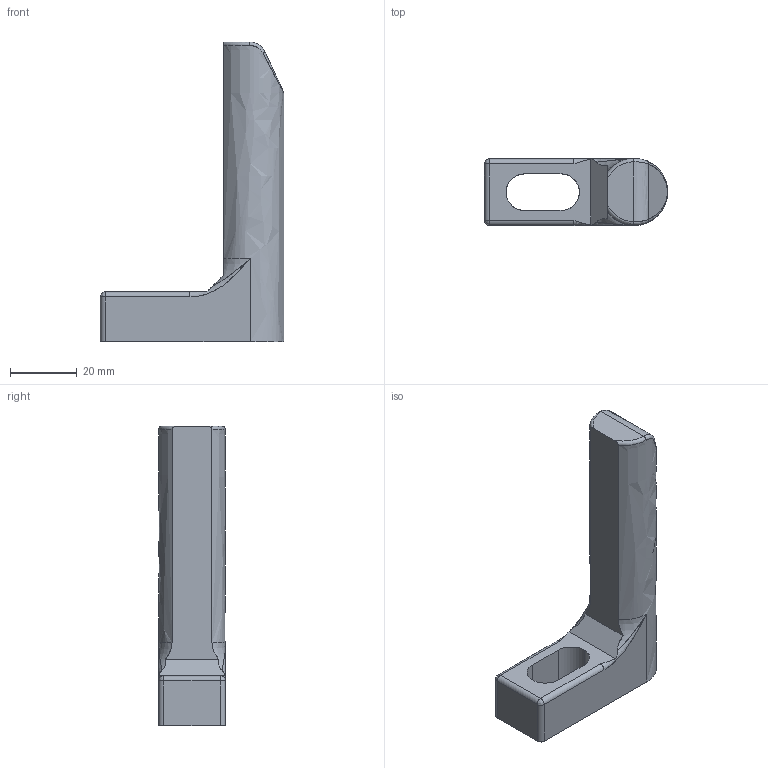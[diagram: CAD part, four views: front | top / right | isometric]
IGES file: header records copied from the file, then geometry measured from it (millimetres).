
Start section: START RECORD GO HERE.
Global section: file name: 704-3.igs; native system: DASSAULT SYSTEMES CATIA V5 R20 - www.3ds.com; preprocessor: CATIA Version 5 Release 20 ; author: Utente; organization: NB04-ASUS; date: 20201129.132616; units: millimetre
Bounding box: 55 x 20 x 90 mm (x, y, z)
Surface area: 9055.5 mm2 (no closed solid volume)
Topology: 0 solids, 0 shells, 35 faces, 178 edges, 174 vertices
Faces by surface type: revolution 18, plane 11, bspline 6
